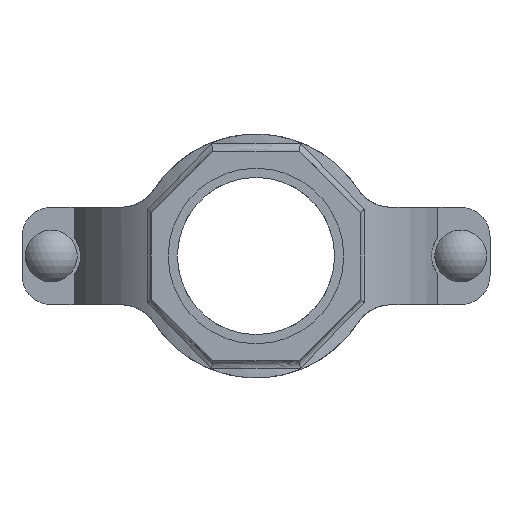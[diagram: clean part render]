
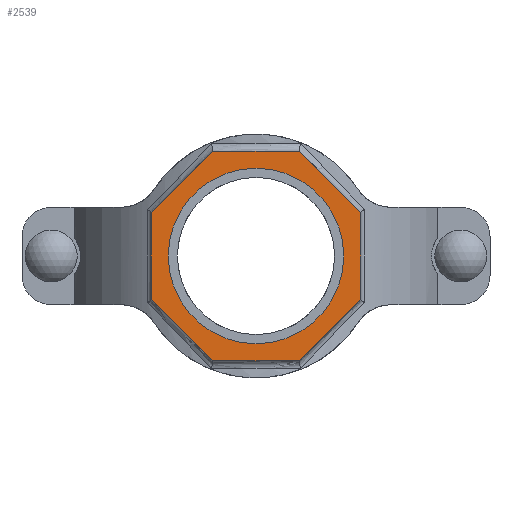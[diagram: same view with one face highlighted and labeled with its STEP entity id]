
A CAD part, front view. The second image highlights one B-rep face of the part: STEP entity #2539.
In plain terms, the highlighted planar face has unit normal (0, -1, 0) as drawn and (0, 1, 0) by its records, which use the part's own axes.
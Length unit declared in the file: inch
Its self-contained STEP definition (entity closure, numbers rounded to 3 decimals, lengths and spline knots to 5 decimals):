
#186=FACE_BOUND('',#459,.T.);
#307=FACE_OUTER_BOUND('',#458,.T.);
#458=EDGE_LOOP('',(#2138,#2139,#2140,#2141,#2142,#2143,#2144,#2145));
#459=EDGE_LOOP('',(#2146));
#594=LINE('',#4645,#780);
#597=LINE('',#4650,#783);
#599=LINE('',#4654,#785);
#601=LINE('',#4658,#787);
#641=LINE('',#5115,#827);
#643=LINE('',#5119,#829);
#645=LINE('',#5123,#831);
#647=LINE('',#5126,#833);
#780=VECTOR('',#3278,0.3937);
#783=VECTOR('',#3283,0.3937);
#785=VECTOR('',#3287,0.3937);
#787=VECTOR('',#3291,0.3937);
#827=VECTOR('',#3427,0.3937);
#829=VECTOR('',#3431,0.3937);
#831=VECTOR('',#3435,0.3937);
#833=VECTOR('',#3439,0.3937);
#919=CIRCLE('',#2802,2.25);
#1097=VERTEX_POINT('',#4642);
#1098=VERTEX_POINT('',#4644);
#1099=VERTEX_POINT('',#4648);
#1100=VERTEX_POINT('',#4652);
#1101=VERTEX_POINT('',#4656);
#1136=VERTEX_POINT('',#4944);
#1160=VERTEX_POINT('',#5114);
#1161=VERTEX_POINT('',#5118);
#1162=VERTEX_POINT('',#5122);
#1408=EDGE_CURVE('',#1098,#1097,#594,.T.);
#1411=EDGE_CURVE('',#1097,#1099,#597,.T.);
#1413=EDGE_CURVE('',#1099,#1100,#599,.T.);
#1415=EDGE_CURVE('',#1100,#1101,#601,.T.);
#1461=EDGE_CURVE('',#1136,#1136,#919,.T.);
#1495=EDGE_CURVE('',#1160,#1098,#641,.T.);
#1497=EDGE_CURVE('',#1161,#1160,#643,.T.);
#1499=EDGE_CURVE('',#1162,#1161,#645,.T.);
#1501=EDGE_CURVE('',#1101,#1162,#647,.T.);
#2138=ORIENTED_EDGE('',*,*,#1501,.T.);
#2139=ORIENTED_EDGE('',*,*,#1499,.T.);
#2140=ORIENTED_EDGE('',*,*,#1497,.T.);
#2141=ORIENTED_EDGE('',*,*,#1495,.T.);
#2142=ORIENTED_EDGE('',*,*,#1408,.T.);
#2143=ORIENTED_EDGE('',*,*,#1411,.T.);
#2144=ORIENTED_EDGE('',*,*,#1413,.T.);
#2145=ORIENTED_EDGE('',*,*,#1415,.T.);
#2146=ORIENTED_EDGE('',*,*,#1461,.T.);
#2280=PLANE('',#2825);
#2539=ADVANCED_FACE('',(#307,#186),#2280,.T.);
#2802=AXIS2_PLACEMENT_3D('',#4945,#3369,#3370);
#2825=AXIS2_PLACEMENT_3D('',#5127,#3440,#3441);
#3278=DIRECTION('',(0.,0.,1.));
#3283=DIRECTION('',(0.707,0.,0.707));
#3287=DIRECTION('',(1.,0.,0.));
#3291=DIRECTION('',(0.707,0.,-0.707));
#3369=DIRECTION('center_axis',(0.,-1.,0.));
#3370=DIRECTION('ref_axis',(-1.,0.,0.));
#3427=DIRECTION('',(-0.707,0.,0.707));
#3431=DIRECTION('',(-1.,0.,0.));
#3435=DIRECTION('',(-0.707,0.,-0.707));
#3439=DIRECTION('',(0.,0.,-1.));
#3440=DIRECTION('center_axis',(0.,1.,0.));
#3441=DIRECTION('ref_axis',(0.,0.,1.));
#4642=CARTESIAN_POINT('',(-2.6875,6.75,1.1132));
#4644=CARTESIAN_POINT('',(-2.6875,6.75,-1.1132));
#4645=CARTESIAN_POINT('',(-2.6875,6.75,1.1132));
#4648=CARTESIAN_POINT('',(-1.1132,6.75,2.6875));
#4650=CARTESIAN_POINT('',(-1.1132,6.75,2.6875));
#4652=CARTESIAN_POINT('',(1.1132,6.75,2.6875));
#4654=CARTESIAN_POINT('',(1.1132,6.75,2.6875));
#4656=CARTESIAN_POINT('',(2.6875,6.75,1.1132));
#4658=CARTESIAN_POINT('',(2.6875,6.75,1.1132));
#4944=CARTESIAN_POINT('',(2.25,6.75,0.));
#4945=CARTESIAN_POINT('Origin',(0.,6.75,0.));
#5114=CARTESIAN_POINT('',(-1.1132,6.75,-2.6875));
#5115=CARTESIAN_POINT('',(-2.6875,6.75,-1.1132));
#5118=CARTESIAN_POINT('',(1.1132,6.75,-2.6875));
#5119=CARTESIAN_POINT('',(-1.1132,6.75,-2.6875));
#5122=CARTESIAN_POINT('',(2.6875,6.75,-1.1132));
#5123=CARTESIAN_POINT('',(1.1132,6.75,-2.6875));
#5126=CARTESIAN_POINT('',(2.6875,6.75,-1.1132));
#5127=CARTESIAN_POINT('Origin',(0.,6.75,0.));
